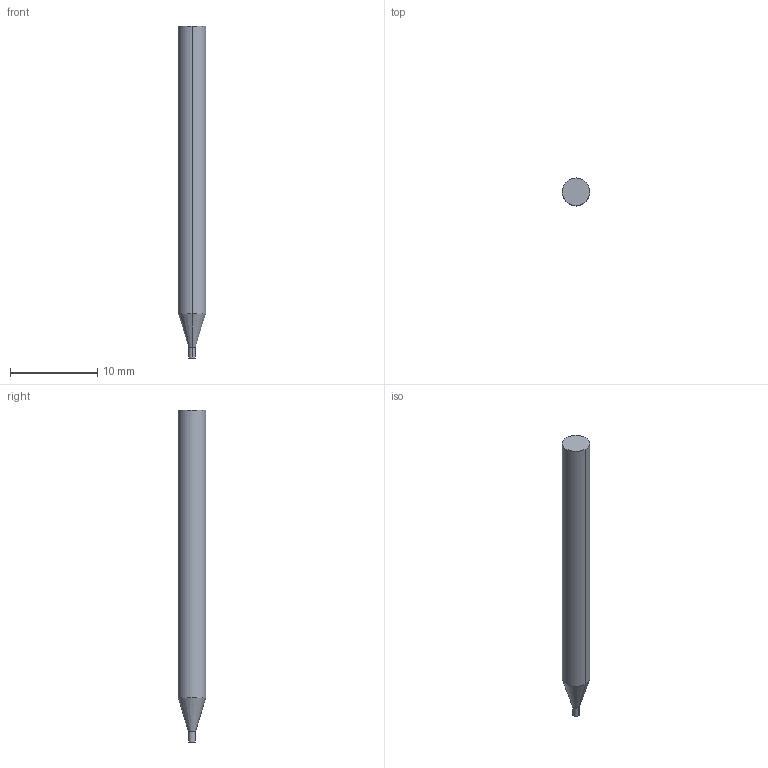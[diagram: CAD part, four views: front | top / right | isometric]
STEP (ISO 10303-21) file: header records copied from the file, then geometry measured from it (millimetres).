
FILE_DESCRIPTION((' '),'2;1');
FILE_NAME( '3MVS0312AH.stp', '2026-01-21T19:06:35', (' '), ('--- Datakit www.datakit.com---'), ' Datakit CrossCadWare V2025.4 Sep 19 2025', 'Mastercam 2027', ' ');
FILE_SCHEMA(('AUTOMOTIVE_DESIGN { 1 0 10303 214 1 1 1 1 }'));
Length unit declared in the file: inch
Products named in the file (1): 3MVS0312AH
Bounding box: 3.17 x 3.17 x 38.1 mm (x, y, z)
Volume: 275.4 mm3; surface area: 366 mm2
Topology: 1 solids, 1 shells, 8 faces, 14 edges, 8 vertices
Faces by surface type: cylinder 4, plane 2, cone 2
Entity records: 264 total; most frequent: DIRECTION 48, CARTESIAN_POINT 35, ORIENTED_EDGE 28, AXIS2_PLACEMENT_3D 21, EDGE_CURVE 14, VERTEX_POINT 8, CIRCLE 8, EDGE_LOOP 8
